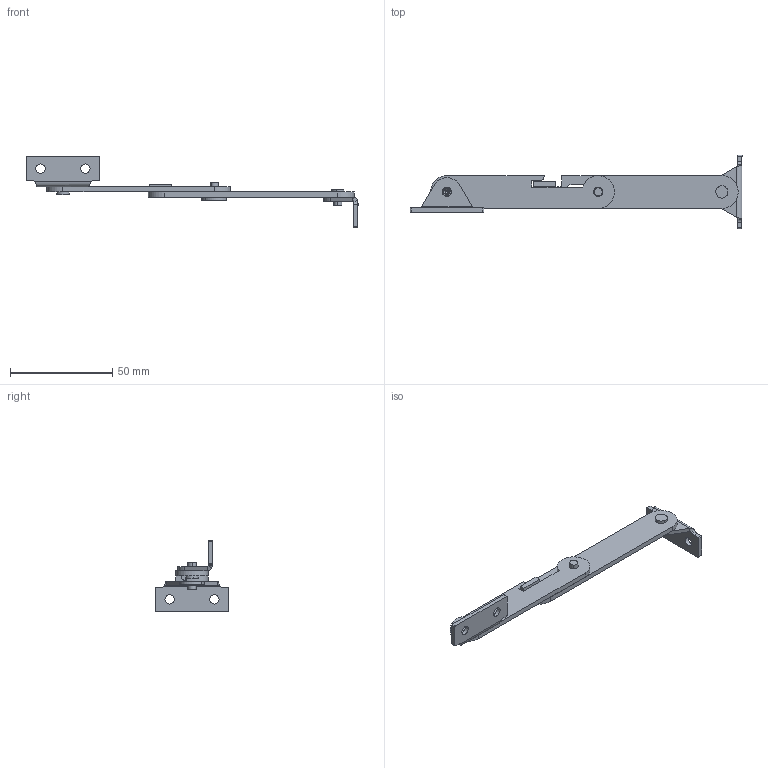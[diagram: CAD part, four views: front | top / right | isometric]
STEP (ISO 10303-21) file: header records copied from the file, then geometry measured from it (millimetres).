
FILE_DESCRIPTION (( 'STEP AP214' ), '1' );
FILE_NAME ('4.401.305.STEP', '2016-09-09T06:53:58', ( '' ), ( '' ), 'SwSTEP 2.0', 'SolidWorks 2015', '' );
FILE_SCHEMA (( 'AUTOMOTIVE_DESIGN' ));
Length unit declared in the file: millimetre
Products named in the file (6): 4.401.301.04_A; 4.401.301.03_A; 4.401.301.02_305; 4.401.301.01_305; 4.401.305; 4.401.301.05_A
Assembly tree (7 placements, depth 2):
  4.401.305
    4.401.301.01_305
    4.401.301.02_305
    4.401.301.03_A  x2
    4.401.301.04_A
    4.401.301.05_A  x2
Bounding box: 162.51 x 36.2 x 34.98 mm (x, y, z)
Volume: 9872.1 mm3; surface area: 10756.3 mm2
Topology: 7 solids, 7 shells, 138 faces, 328 edges, 206 vertices
Faces by surface type: cylinder 67, plane 54, bspline 9, cone 8
Entity records: 3064 total; most frequent: CARTESIAN_POINT 565, DIRECTION 496, ORIENTED_EDGE 448, EDGE_CURVE 224, AXIS2_PLACEMENT_3D 190, VERTEX_POINT 143, LINE 116, VECTOR 116
